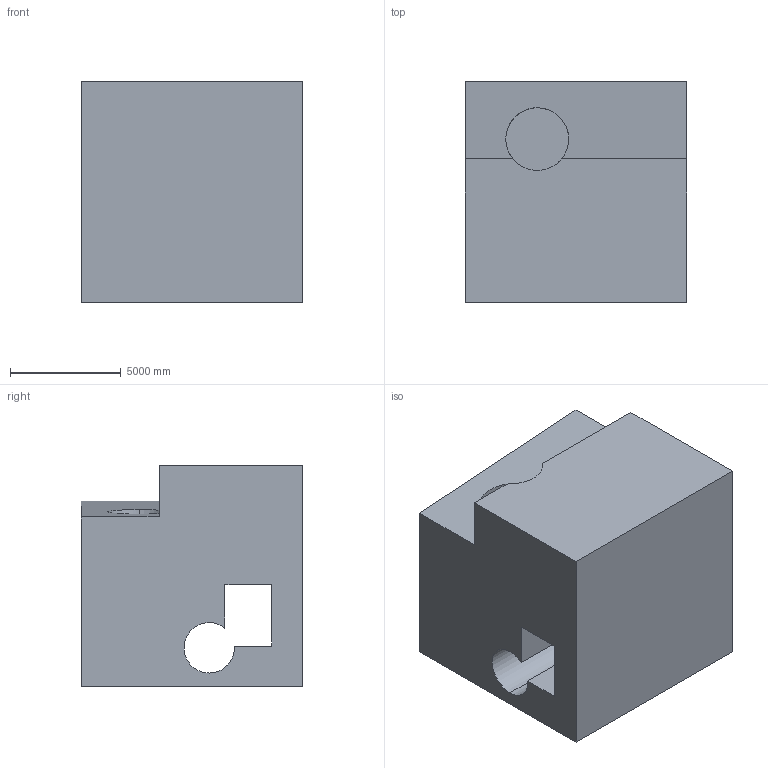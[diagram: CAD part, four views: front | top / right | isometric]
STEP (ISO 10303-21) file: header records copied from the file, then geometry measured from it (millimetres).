
FILE_DESCRIPTION (( 'STEP AP203' ), '1' );
FILE_NAME ('1405.STEP', '2022-08-18T14:16:59', ( 'user' ), ( '' ), 'SwSTEP 2.0', 'SolidWorks 2021', '' );
FILE_SCHEMA (( 'CONFIG_CONTROL_DESIGN' ));
Length unit declared in the file: centimetre
Products named in the file (1): 1405
Bounding box: 10000 x 10000 x 10000 mm (x, y, z)
Volume: 805347679812.8 mm3; surface area: 751372768.6 mm2
Topology: 1 solids, 1 shells, 22 faces, 57 edges, 38 vertices
Faces by surface type: plane 15, cylinder 7
Entity records: 755 total; most frequent: CARTESIAN_POINT 127, ORIENTED_EDGE 114, DIRECTION 113, EDGE_CURVE 57, LINE 41, VECTOR 41, VERTEX_POINT 38, AXIS2_PLACEMENT_3D 36
